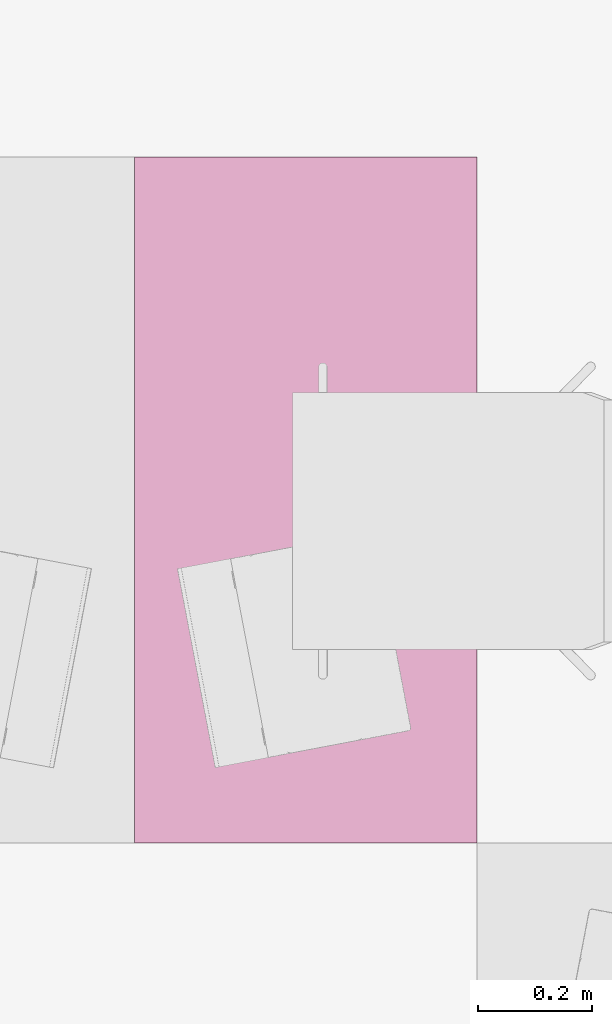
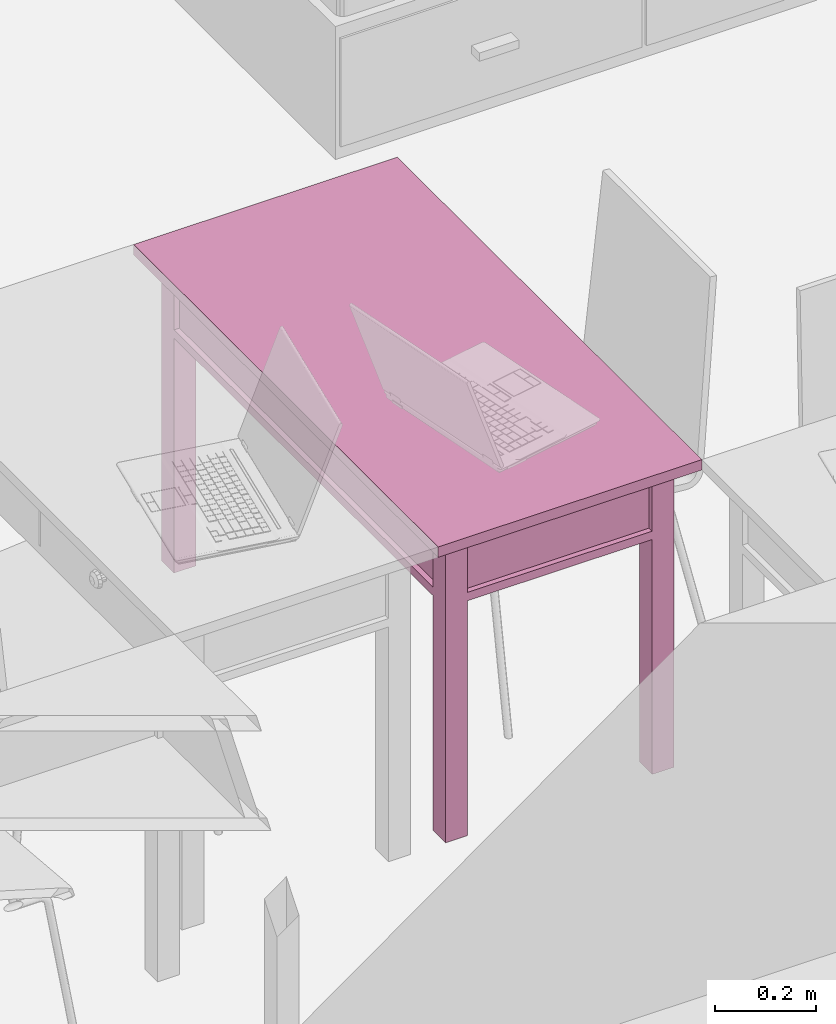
# One storey, part 147 of 172: 1 furnishing.
"""IFC2X3 building model written with IfcOpenShell, lengths in millimetres."""

import ifcopenshell
import ifcopenshell.guid

model = None  # the IFC model being written
_history = None  # IfcOwnerHistory: only IFC2X3 demands one
_inside = {}  # id of a spatial element -> (the spatial element, [elements in it])
_under = {}  # id of a project, library or spatial element -> (it, [spatial elements below it])
_declared = {}  # id of a project -> (the project, [libraries it declares])
_typed = {}  # id of a type object -> (the type object, [elements of that type])
_made_of = {}  # id of a material, layer set ... -> (it, [elements and type objects made of it])


def new_model(schema):
    """Start an empty IFC model of exactly this schema.

    Asked for "IFC4X3", IfcOpenShell would pick the latest addendum, in which some entities
    have other attributes; the version numbers below select the first issue.
    IFC2X3 requires an IfcOwnerHistory on every rooted entity: one is made here for all.
    """
    global model, _history
    if schema == "IFC4X3":
        model = ifcopenshell.file(schema_version=(4, 3, 0, 0))
    else:
        model = ifcopenshell.file(schema=schema)
    _inside.clear()
    _under.clear()
    _declared.clear()
    _typed.clear()
    _made_of.clear()
    _history = None
    if model.schema == "IFC2X3":
        org = make("IfcOrganization", Name="unknown")
        user = make(
            "IfcPersonAndOrganization",
            ThePerson=make("IfcPerson", FamilyName="unknown"),
            TheOrganization=org,
        )
        app = make(
            "IfcApplication",
            ApplicationDeveloper=org,
            Version="unknown",
            ApplicationFullName="unknown",
            ApplicationIdentifier="unknown",
        )
        _history = make(
            "IfcOwnerHistory",
            OwningUser=user,
            OwningApplication=app,
            ChangeAction="ADDED",
            CreationDate=0,
        )
    return model


def make(cls, **values):
    """One entity of the class cls with the attributes given. An attribute that is None is left unset."""
    return model.create_entity(
        cls, **{name: value for name, value in values.items() if value is not None}
    )


def entity(cls, *values):
    """Any entity or typed value of the class cls, its attributes in the order of the schema. None: left unset."""
    e = model.create_entity(cls)
    for i, value in enumerate(values):
        if value is not None:
            e[i] = value
    return e


def rooted(cls, **values):
    """An entity with a GlobalId (a new one), such as an element, a storey or a relation."""
    return make(cls, GlobalId=ifcopenshell.guid.new(), OwnerHistory=_history, **values)


def si_unit(unit_type, name, prefix=None):
    """IfcSIUnit, for example si_unit("LENGTHUNIT", "METRE", prefix="MILLI")."""
    return make("IfcSIUnit", UnitType=unit_type, Prefix=prefix, Name=name)


def converted_unit(unit_type, name, factor, base, dimensions=None, offset=None):
    """IfcConversionBasedUnit, such as the inch: factor (a typed value) times the base unit."""
    return make(
        "IfcConversionBasedUnit"
        if offset is None
        else "IfcConversionBasedUnitWithOffset",
        ConversionOffset=offset,
        Dimensions=None
        if dimensions is None
        else entity("IfcDimensionalExponents", *dimensions),
        UnitType=unit_type,
        Name=name,
        ConversionFactor=make(
            "IfcMeasureWithUnit", ValueComponent=factor, UnitComponent=base
        ),
    )


def money_unit(currency):
    """IfcMonetaryUnit."""
    return make("IfcMonetaryUnit", Currency=currency)


def assignment(units):
    """IfcUnitAssignment: the units of a project."""
    return None if units is None else make("IfcUnitAssignment", Units=units)


def point(xyz):
    """IfcCartesianPoint."""
    return None if xyz is None else make("IfcCartesianPoint", Coordinates=xyz)


def direction(xyz):
    """IfcDirection."""
    return None if xyz is None else make("IfcDirection", DirectionRatios=xyz)


def frame(location, z_axis=None, x_axis=None):
    """IfcAxis2Placement3D, a coordinate frame: its origin and axes. An axis left out is left unset."""
    return make(
        "IfcAxis2Placement3D",
        Location=point(location),
        Axis=direction(z_axis),
        RefDirection=direction(x_axis),
    )


def origin_with_axes():
    """The frame at (0, 0, 0) with the z axis (0, 0, 1) and the x axis (1, 0, 0) written out."""
    return frame((0.0, 0.0, 0.0), z_axis=(0.0, 0.0, 1.0), x_axis=(1.0, 0.0, 0.0))


def place(relative_to, where):
    """IfcLocalPlacement: puts the frame where relative to a parent placement (None: the world)."""
    return make(
        "IfcLocalPlacement", PlacementRelTo=relative_to, RelativePlacement=where
    )


def context(
    kind, dimensions, precision=None, world=None, true_north=None, identifier=None
):
    """IfcGeometricRepresentationContext, for example the 3D "Model" context."""
    return make(
        "IfcGeometricRepresentationContext",
        ContextIdentifier=identifier,
        ContextType=kind,
        CoordinateSpaceDimension=dimensions,
        Precision=precision,
        WorldCoordinateSystem=world,
        TrueNorth=true_north,
    )


def subcontext(parent, identifier, kind, view, scale=None):
    """IfcGeometricRepresentationSubContext, for example "Body" below "Model"."""
    return make(
        "IfcGeometricRepresentationSubContext",
        ContextIdentifier=identifier,
        ContextType=kind,
        ParentContext=parent,
        TargetScale=scale,
        TargetView=view,
    )


def project(units=None, contexts=None):
    """IfcProject with its units and contexts."""
    return rooted(
        "IfcProject",
        Name="project",
        RepresentationContexts=contexts,
        UnitsInContext=assignment(units),
    )


def spatial(cls, under=None, at=None, **own):
    """A site, building, storey or space (cls), placed at a placement, below another one or the project."""
    s = rooted(cls, ObjectPlacement=at, **own)
    if under is not None:
        _under.setdefault(under.id(), (under, []))[1].append(s)
    return s


def faces_of(points, faces, orient=None, outer=None):
    """IfcFace entities. A face is a list of loops; a loop is a list of indices into points, from 0.

    orient and outer hold one flag for each loop. By default every Orientation is true, the
    first loop of a face is its IfcFaceOuterBound and the others are IfcFaceBound.
    """
    made = []
    for i, loops in enumerate(faces):
        bounds = []
        for j, loop in enumerate(loops):
            is_outer = j == 0 if outer is None else outer[i][j]
            bounds.append(
                make(
                    "IfcFaceOuterBound" if is_outer else "IfcFaceBound",
                    Bound=make("IfcPolyLoop", Polygon=[points[k] for k in loop]),
                    Orientation=True if orient is None else orient[i][j],
                )
            )
        made.append(make("IfcFace", Bounds=bounds))
    return made


def faceted_brep(points, faces, orient=None, outer=None, voids=None):
    """IfcFacetedBrep: a solid bounded by flat faces; with voids (closed shells), ...WithVoids."""
    shared = [point(p) for p in points]
    hull = make("IfcClosedShell", CfsFaces=faces_of(shared, faces, orient, outer))
    if voids is None:
        return make("IfcFacetedBrep", Outer=hull)
    return make(
        "IfcFacetedBrepWithVoids",
        Outer=hull,
        Voids=[
            make(cls, CfsFaces=faces_of(shared, fs, o, b)) for cls, fs, o, b in voids
        ],
    )


def shape(context_of_items, identifier, shape_type, items):
    """IfcShapeRepresentation: the items that make up one representation, for example the "Body"."""
    return make(
        "IfcShapeRepresentation",
        ContextOfItems=context_of_items,
        RepresentationIdentifier=identifier,
        RepresentationType=shape_type,
        Items=items,
    )


def source(mapping_origin, context_of_items, identifier, shape_type, items):
    """IfcRepresentationMap: a shape defined once, which mapped items show again and again."""
    return make(
        "IfcRepresentationMap",
        MappingOrigin=mapping_origin,
        MappedRepresentation=shape(context_of_items, identifier, shape_type, items),
    )


def transform(
    local_origin,
    x_axis=None,
    y_axis=None,
    z_axis=None,
    scale=None,
    scale2=None,
    scale3=None,
    uniform=True,
):
    """IfcCartesianTransformationOperator3D, or its non-uniform kind. x_axis, y_axis, z_axis: its Axis1, 2, 3."""
    if uniform:
        return make(
            "IfcCartesianTransformationOperator3D",
            Axis1=direction(x_axis),
            Axis2=direction(y_axis),
            LocalOrigin=point(local_origin),
            Scale=scale,
            Axis3=direction(z_axis),
        )
    return make(
        "IfcCartesianTransformationOperator3DnonUniform",
        Axis1=direction(x_axis),
        Axis2=direction(y_axis),
        LocalOrigin=point(local_origin),
        Scale=scale,
        Axis3=direction(z_axis),
        Scale2=scale2,
        Scale3=scale3,
    )


def mapped(mapping_source, mapping_target):
    """IfcMappedItem: shows the shape of a source again, moved by a transform."""
    return make(
        "IfcMappedItem", MappingSource=mapping_source, MappingTarget=mapping_target
    )


def material(Name=None, Category=None):
    """IfcMaterial."""
    return make("IfcMaterial", Name=Name, Category=Category)


def material_list(materials):
    """IfcMaterialList."""
    return make("IfcMaterialList", Materials=materials)


def made_of(thing, what):
    """Note that an element or type object is made of a material, layer set ...; save() writes the relation."""
    if what is not None:
        _made_of.setdefault(what.id(), (what, []))[1].append(thing)
    return thing


def type_object(cls, material=None, **own):
    """A type object (cls), such as IfcWallType, which elements share."""
    return made_of(rooted(cls, **own), material)


def element(
    cls,
    number,
    at=None,
    inside=None,
    cuts=None,
    type_object=None,
    material=None,
    context=None,
    identifier="Body",
    shape_type=None,
    held_by="IfcProductDefinitionShape",
    body=None,
    shapes=None,
    **own,
):
    """One element of the class cls, such as IfcWall. Its Tag is "e" and its number.

    at: its placement. inside: the storey or other place that contains it. cuts: it is an
    opening in that element (IfcRelVoidsElement). A single representation is given by context,
    identifier, shape_type and body (its items); several are given by shapes. held_by: the class
    of the entity that holds the representations. save() writes the other relations.
    """
    e = rooted(cls, Tag="e%d" % number, ObjectPlacement=at, **own)
    if body is not None:
        shapes = [shape(context, identifier, shape_type, body)]
    if shapes is not None:
        e.Representation = make(held_by, Representations=shapes)
    if inside is not None:
        _inside.setdefault(inside.id(), (inside, []))[1].append(e)
    if cuts is not None:
        rooted(
            "IfcRelVoidsElement", RelatingBuildingElement=cuts, RelatedOpeningElement=e
        )
    if type_object is not None:
        _typed.setdefault(type_object.id(), (type_object, []))[1].append(e)
    return made_of(e, material)


def aggregate(whole, parts):
    """IfcRelAggregates: a whole, such as a stair, and the parts it consists of."""
    return rooted("IfcRelAggregates", RelatingObject=whole, RelatedObjects=parts)


def save(model, path):
    """Write the relations noted so far, then the file.

    IfcRelAggregates (storeys below a building ...), IfcRelContainedInSpatialStructure (elements
    in a storey), IfcRelDefinesByType, IfcRelAssociatesMaterial and IfcRelDeclares: one each for
    every whole, place, type object, material and project.
    """
    for whole, parts in _under.values():
        aggregate(whole, parts)
    for where, things in _inside.values():
        rooted(
            "IfcRelContainedInSpatialStructure",
            RelatedElements=things,
            RelatingStructure=where,
        )
    for kind, things in _typed.values():
        rooted("IfcRelDefinesByType", RelatedObjects=things, RelatingType=kind)
    for what, things in _made_of.values():
        rooted("IfcRelAssociatesMaterial", RelatedObjects=things, RelatingMaterial=what)
    for by, libraries in _declared.values():
        rooted("IfcRelDeclares", RelatingContext=by, RelatedDefinitions=libraries)
    model.write(path)


model = new_model("IFC2X3")

# Units and contexts
model_context = context("Model", 3, precision=1e-05, world=origin_with_axes(), true_north=direction((0.0, 1.0)))
body_context = subcontext(model_context, "Body", "Model", "MODEL_VIEW")
ifc_project = project(units=[si_unit("LENGTHUNIT", "METRE", prefix="MILLI"), si_unit("AREAUNIT", "SQUARE_METRE"), si_unit("VOLUMEUNIT", "CUBIC_METRE"), converted_unit("PLANEANGLEUNIT", "DEGREE", entity("IfcPlaneAngleMeasure", 0.0174532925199), si_unit("PLANEANGLEUNIT", "RADIAN"), dimensions=[0, 0, 0, 0, 0, 0, 0]), si_unit("SOLIDANGLEUNIT", "STERADIAN"), money_unit("USD"), converted_unit("TIMEUNIT", "Year", entity("IfcTimeMeasure", 31556926.0), si_unit("TIMEUNIT", "SECOND"), dimensions=[0, 0, 0, 0, 0, 0, 0]), si_unit("MASSUNIT", "GRAM"), si_unit("THERMODYNAMICTEMPERATUREUNIT", "DEGREE_CELSIUS"), si_unit("LUMINOUSINTENSITYUNIT", "LUMEN")], contexts=[model_context])

# Site, building, storey
site_placement = place(None, origin_with_axes())
site = spatial("IfcSite", under=ifc_project, at=site_placement, Name="Site", CompositionType="ELEMENT")
building_placement = place(site_placement, origin_with_axes())
building = spatial("IfcBuilding", under=site, at=building_placement, Name="Building", CompositionType="ELEMENT")
storey_placement = place(building_placement, frame((0.0, 0.0, 3200.0), z_axis=(0.0, 0.0, 1.0), x_axis=(1.0, 0.0, 0.0)))
storey = spatial("IfcBuildingStorey", under=building, at=storey_placement, Name="3KORRUS", CompositionType="ELEMENT", Elevation=3200.0)

# Furnishing
ifc_material = material(Name="Background")
ifc_material_list = material_list([ifc_material])
furnishing_element_type = type_object("IfcFurnishingElementType", Name="Rectangular Table 01 19")
shared_shape = source(origin_with_axes(), body_context, "Body", "Brep", [
    faceted_brep([(90.0, 40.0, 0.0), (40.0, 40.0, 0.0), (40.0, 90.0, 0.0), (90.0, 90.0, 0.0), (90.0, 40.0, 725.0), (40.0, 40.0, 725.0), (40.0, 90.0, 725.0), (90.0, 90.0, 725.0)], [[[0, 1, 2, 3]], [[1, 0, 4, 5]], [[2, 1, 5, 6]], [[3, 2, 6, 7]], [[0, 3, 7, 4]], [[5, 4, 7, 6]]]),
    faceted_brep([(1160.0, 40.0, 0.0), (1110.0, 40.0, 0.0), (1110.0, 90.0, 0.0), (1160.0, 90.0, 0.0), (1160.0, 40.0, 725.0), (1110.0, 40.0, 725.0), (1110.0, 90.0, 725.0), (1160.0, 90.0, 725.0)], [[[0, 1, 2, 3]], [[1, 0, 4, 5]], [[2, 1, 5, 6]], [[3, 2, 6, 7]], [[0, 3, 7, 4]], [[5, 4, 7, 6]]]),
    faceted_brep([(90.0, 510.0, 0.0), (40.0, 510.0, 0.0), (40.0, 560.0, 0.0), (90.0, 560.0, 0.0), (90.0, 510.0, 725.0), (40.0, 510.0, 725.0), (40.0, 560.0, 725.0), (90.0, 560.0, 725.0)], [[[0, 1, 2, 3]], [[1, 0, 4, 5]], [[2, 1, 5, 6]], [[3, 2, 6, 7]], [[0, 3, 7, 4]], [[5, 4, 7, 6]]]),
    faceted_brep([(1160.0, 510.0, 0.0), (1110.0, 510.0, 0.0), (1110.0, 560.0, 0.0), (1160.0, 560.0, 0.0), (1160.0, 510.0, 725.0), (1110.0, 510.0, 725.0), (1110.0, 560.0, 725.0), (1160.0, 560.0, 725.0)], [[[0, 1, 2, 3]], [[1, 0, 4, 5]], [[2, 1, 5, 6]], [[3, 2, 6, 7]], [[0, 3, 7, 4]], [[5, 4, 7, 6]]]),
    faceted_brep([(1160.0, 40.0, 565.0), (40.0, 40.0, 565.0), (40.0, 560.0, 565.0), (1160.0, 560.0, 565.0), (1160.0, 40.0, 585.0), (40.0, 40.0, 585.0), (40.0, 560.0, 585.0), (1160.0, 560.0, 585.0)], [[[0, 1, 2, 3]], [[1, 0, 4, 5]], [[2, 1, 5, 6]], [[3, 2, 6, 7]], [[0, 3, 7, 4]], [[5, 4, 7, 6]]]),
    faceted_brep([(1110.0, 52.5, 585.0), (90.0, 52.5, 585.0), (90.0, 77.5, 585.0), (1110.0, 77.5, 585.0), (1110.0, 52.5, 745.0), (90.0, 52.5, 745.0), (90.0, 77.5, 745.0), (1110.0, 77.5, 745.0)], [[[0, 1, 2, 3]], [[1, 0, 4, 5]], [[2, 1, 5, 6]], [[3, 2, 6, 7]], [[0, 3, 7, 4]], [[5, 4, 7, 6]]]),
    faceted_brep([(77.5, 90.0, 585.0), (52.5, 90.0, 585.0), (52.5, 510.0, 585.0), (77.5, 510.0, 585.0), (77.5, 90.0, 745.0), (52.5, 90.0, 745.0), (52.5, 510.0, 745.0), (77.5, 510.0, 745.0)], [[[0, 1, 2, 3]], [[1, 0, 4, 5]], [[2, 1, 5, 6]], [[3, 2, 6, 7]], [[0, 3, 7, 4]], [[5, 4, 7, 6]]]),
    faceted_brep([(90.0, 547.5, 585.0), (1110.0, 547.5, 585.0), (1110.0, 522.5, 585.0), (90.0, 522.5, 585.0), (90.0, 547.5, 745.0), (1110.0, 547.5, 745.0), (1110.0, 522.5, 745.0), (90.0, 522.5, 745.0)], [[[0, 1, 2, 3]], [[1, 0, 4, 5]], [[2, 1, 5, 6]], [[3, 2, 6, 7]], [[0, 3, 7, 4]], [[5, 4, 7, 6]]]),
    faceted_brep([(1122.5, 510.0, 585.0), (1147.5, 510.0, 585.0), (1147.5, 90.0, 585.0), (1122.5, 90.0, 585.0), (1122.5, 510.0, 745.0), (1147.5, 510.0, 745.0), (1147.5, 90.0, 745.0), (1122.5, 90.0, 745.0)], [[[0, 1, 2, 3]], [[1, 0, 4, 5]], [[2, 1, 5, 6]], [[3, 2, 6, 7]], [[0, 3, 7, 4]], [[5, 4, 7, 6]]]),
    faceted_brep([(597.5, 40.0, 585.0), (95.0, 40.0, 585.0), (95.0, 60.0, 585.0), (597.5, 60.0, 585.0), (597.5, 40.0, 745.0), (95.0, 40.0, 745.0), (95.0, 60.0, 745.0), (597.5, 60.0, 745.0)], [[[0, 1, 2, 3]], [[1, 0, 4, 5]], [[2, 1, 5, 6]], [[3, 2, 6, 7]], [[0, 3, 7, 4]], [[5, 4, 7, 6]]]),
    faceted_brep([(1105.0, 40.0, 585.0), (602.5, 40.0, 585.0), (602.5, 60.0, 585.0), (1105.0, 60.0, 585.0), (1105.0, 40.0, 745.0), (602.5, 40.0, 745.0), (602.5, 60.0, 745.0), (1105.0, 60.0, 745.0)], [[[0, 1, 2, 3]], [[1, 0, 4, 5]], [[2, 1, 5, 6]], [[3, 2, 6, 7]], [[0, 3, 7, 4]], [[5, 4, 7, 6]]]),
    faceted_brep([(354.91, 40.0, 660.0), (351.25, 40.0, 656.34), (346.25, 40.0, 655.0), (341.25, 40.0, 656.34), (337.59, 40.0, 660.0), (336.25, 40.0, 665.0), (337.59, 40.0, 670.0), (341.25, 40.0, 673.66), (346.25, 40.0, 675.0), (351.25, 40.0, 673.66), (354.91, 40.0, 670.0), (356.25, 40.0, 665.0), (354.91, 25.0, 660.0), (351.25, 25.0, 656.34), (346.25, 25.0, 655.0), (341.25, 25.0, 656.34), (337.59, 25.0, 660.0), (336.25, 25.0, 665.0), (337.59, 25.0, 670.0), (341.25, 25.0, 673.66), (346.25, 25.0, 675.0), (351.25, 25.0, 673.66), (354.91, 25.0, 670.0), (356.25, 25.0, 665.0)], [[[0, 1, 2, 3, 4, 5, 6, 7, 8, 9, 10, 11]], [[1, 0, 12, 13]], [[2, 1, 13, 14]], [[3, 2, 14, 15]], [[4, 3, 15, 16]], [[5, 4, 16, 17]], [[6, 5, 17, 18]], [[7, 6, 18, 19]], [[8, 7, 19, 20]], [[9, 8, 20, 21]], [[10, 9, 21, 22]], [[11, 10, 22, 23]], [[0, 11, 23, 12]], [[12, 23, 22, 21, 20, 19, 18, 17, 16, 15, 14, 13]]]),
    faceted_brep([(356.25, 12.01, 665.0), (346.25, 10.0, 665.0), (354.91, 12.01, 660.0), (354.91, 12.01, 670.0), (351.25, 12.01, 656.34), (363.571, 17.5, 665.0), (361.25, 17.5, 656.34), (351.25, 12.01, 673.66), (361.25, 17.5, 673.66), (346.25, 12.01, 655.0), (354.91, 17.5, 650.0), (366.25, 25.0, 665.0), (363.571, 25.0, 655.0), (346.25, 12.01, 675.0), (354.91, 17.5, 680.0), (363.571, 25.0, 675.0), (341.25, 12.01, 656.34), (346.25, 17.5, 647.679), (356.25, 25.0, 647.679), (346.25, 25.0, 645.0), (336.25, 25.0, 647.679), (328.929, 25.0, 655.0), (326.25, 25.0, 665.0), (328.929, 25.0, 675.0), (336.25, 25.0, 682.321), (346.25, 25.0, 685.0), (356.25, 25.0, 682.321), (341.25, 12.01, 673.66), (346.25, 17.5, 682.321), (337.59, 12.01, 660.0), (337.59, 17.5, 650.0), (331.25, 17.5, 656.34), (328.929, 17.5, 665.0), (331.25, 17.5, 673.66), (337.59, 17.5, 680.0), (337.59, 12.01, 670.0), (336.25, 12.01, 665.0)], [[[0, 1, 2]], [[3, 1, 0]], [[2, 1, 4]], [[5, 0, 2, 6]], [[7, 1, 3]], [[8, 3, 0, 5]], [[4, 1, 9]], [[6, 2, 4, 10]], [[11, 5, 6, 12]], [[13, 1, 7]], [[14, 7, 3, 8]], [[15, 8, 5, 11]], [[9, 1, 16]], [[10, 4, 9, 17]], [[12, 6, 10, 18]], [[12, 18, 19, 20, 21, 22, 23, 24, 25, 26, 15, 11]], [[27, 1, 13]], [[28, 13, 7, 14]], [[26, 14, 8, 15]], [[16, 1, 29]], [[17, 9, 16, 30]], [[18, 10, 17, 19]], [[19, 17, 30, 20]], [[20, 30, 31, 21]], [[21, 31, 32, 22]], [[22, 32, 33, 23]], [[23, 33, 34, 24]], [[24, 34, 28, 25]], [[25, 28, 14, 26]], [[35, 1, 27]], [[34, 27, 13, 28]], [[29, 1, 36]], [[30, 16, 29, 31]], [[31, 29, 36, 32]], [[32, 36, 35, 33]], [[33, 35, 27, 34]], [[36, 1, 35]]]),
    faceted_brep([(862.41, 40.0, 660.0), (858.75, 40.0, 656.34), (853.75, 40.0, 655.0), (848.75, 40.0, 656.34), (845.09, 40.0, 660.0), (843.75, 40.0, 665.0), (845.09, 40.0, 670.0), (848.75, 40.0, 673.66), (853.75, 40.0, 675.0), (858.75, 40.0, 673.66), (862.41, 40.0, 670.0), (863.75, 40.0, 665.0), (862.41, 25.0, 660.0), (858.75, 25.0, 656.34), (853.75, 25.0, 655.0), (848.75, 25.0, 656.34), (845.09, 25.0, 660.0), (843.75, 25.0, 665.0), (845.09, 25.0, 670.0), (848.75, 25.0, 673.66), (853.75, 25.0, 675.0), (858.75, 25.0, 673.66), (862.41, 25.0, 670.0), (863.75, 25.0, 665.0)], [[[0, 1, 2, 3, 4, 5, 6, 7, 8, 9, 10, 11]], [[1, 0, 12, 13]], [[2, 1, 13, 14]], [[3, 2, 14, 15]], [[4, 3, 15, 16]], [[5, 4, 16, 17]], [[6, 5, 17, 18]], [[7, 6, 18, 19]], [[8, 7, 19, 20]], [[9, 8, 20, 21]], [[10, 9, 21, 22]], [[11, 10, 22, 23]], [[0, 11, 23, 12]], [[12, 23, 22, 21, 20, 19, 18, 17, 16, 15, 14, 13]]]),
    faceted_brep([(863.75, 12.01, 665.0), (853.75, 10.0, 665.0), (862.41, 12.01, 660.0), (862.41, 12.01, 670.0), (858.75, 12.01, 656.34), (871.071, 17.5, 665.0), (868.75, 17.5, 656.34), (858.75, 12.01, 673.66), (868.75, 17.5, 673.66), (853.75, 12.01, 655.0), (862.41, 17.5, 650.0), (873.75, 25.0, 665.0), (871.071, 25.0, 655.0), (853.75, 12.01, 675.0), (862.41, 17.5, 680.0), (871.071, 25.0, 675.0), (848.75, 12.01, 656.34), (853.75, 17.5, 647.679), (863.75, 25.0, 647.679), (853.75, 25.0, 645.0), (843.75, 25.0, 647.679), (836.429, 25.0, 655.0), (833.75, 25.0, 665.0), (836.429, 25.0, 675.0), (843.75, 25.0, 682.321), (853.75, 25.0, 685.0), (863.75, 25.0, 682.321), (848.75, 12.01, 673.66), (853.75, 17.5, 682.321), (845.09, 12.01, 660.0), (845.09, 17.5, 650.0), (838.75, 17.5, 656.34), (836.429, 17.5, 665.0), (838.75, 17.5, 673.66), (845.09, 17.5, 680.0), (845.09, 12.01, 670.0), (843.75, 12.01, 665.0)], [[[0, 1, 2]], [[3, 1, 0]], [[2, 1, 4]], [[5, 0, 2, 6]], [[7, 1, 3]], [[8, 3, 0, 5]], [[4, 1, 9]], [[6, 2, 4, 10]], [[11, 5, 6, 12]], [[13, 1, 7]], [[14, 7, 3, 8]], [[15, 8, 5, 11]], [[9, 1, 16]], [[10, 4, 9, 17]], [[12, 6, 10, 18]], [[12, 18, 19, 20, 21, 22, 23, 24, 25, 26, 15, 11]], [[27, 1, 13]], [[28, 13, 7, 14]], [[26, 14, 8, 15]], [[16, 1, 29]], [[17, 9, 16, 30]], [[18, 10, 17, 19]], [[19, 17, 30, 20]], [[20, 30, 31, 21]], [[21, 31, 32, 22]], [[22, 32, 33, 23]], [[23, 33, 34, 24]], [[24, 34, 28, 25]], [[25, 28, 14, 26]], [[35, 1, 27]], [[34, 27, 13, 28]], [[29, 1, 36]], [[30, 16, 29, 31]], [[31, 29, 36, 32]], [[32, 36, 35, 33]], [[33, 35, 27, 34]], [[36, 1, 35]]]),
    faceted_brep([(1200.0, 0.0, 725.0), (0.0, 0.0, 725.0), (0.0, 600.0, 725.0), (1200.0, 600.0, 725.0), (1200.0, 0.0, 750.0), (0.0, 0.0, 750.0), (0.0, 600.0, 750.0), (1200.0, 600.0, 750.0)], [[[0, 1, 2, 3]], [[1, 0, 4, 5]], [[2, 1, 5, 6]], [[3, 2, 6, 7]], [[0, 3, 7, 4]], [[5, 4, 7, 6]]]),
])
furnishing_placement = place(storey_placement, frame((15542.7643372, -18969.2640751, 0.0), z_axis=(0.0, 0.0, 1.0), x_axis=(0.0, 1.0, 0.0)))
element("IfcFurnishingElement", 1, at=furnishing_placement, inside=storey, type_object=furnishing_element_type, material=ifc_material_list, Name="FU - 011", context=body_context, shape_type="MappedRepresentation", body=[
    mapped(shared_shape, transform((0.0, 0.0, 0.0))),
])

save(model, "model.ifc")
